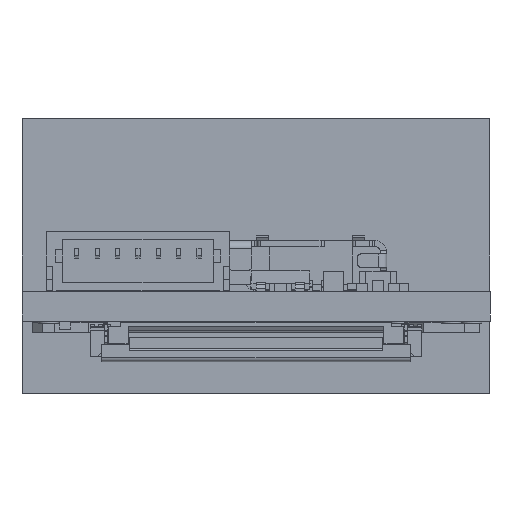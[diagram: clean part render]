
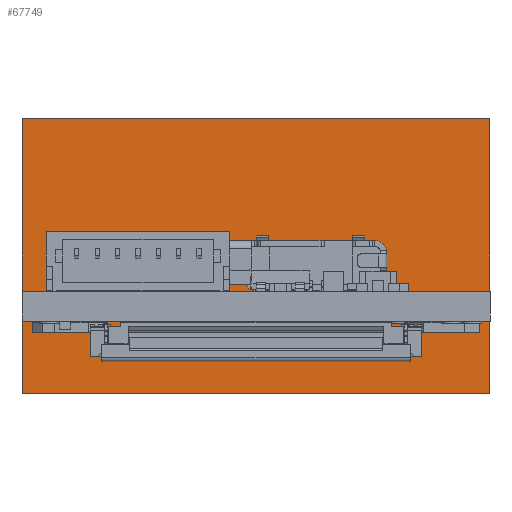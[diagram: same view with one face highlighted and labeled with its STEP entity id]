
A CAD part, left-side view. The second image highlights one B-rep face of the part: STEP entity #67749.
In plain terms, the highlighted planar face has unit normal (-1, 0, 0).
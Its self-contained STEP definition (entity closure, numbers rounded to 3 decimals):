
#67651 = EDGE_CURVE('',#67652,#67654,#67656,.T.);
#67652 = VERTEX_POINT('',#67653);
#67653 = CARTESIAN_POINT('',(-0.25,11.5,0.));
#67654 = VERTEX_POINT('',#67655);
#67655 = CARTESIAN_POINT('',(-0.25,11.5,13.5));
#67656 = LINE('',#67657,#67658);
#67657 = CARTESIAN_POINT('',(-0.25,11.5,0.));
#67658 = VECTOR('',#67659,1.);
#67659 = DIRECTION('',(0.,0.,1.));
#67724 = VERTEX_POINT('',#67725);
#67725 = CARTESIAN_POINT('',(-0.25,-11.5,13.5));
#67731 = EDGE_CURVE('',#67732,#67724,#67734,.T.);
#67732 = VERTEX_POINT('',#67733);
#67733 = CARTESIAN_POINT('',(-0.25,-11.5,0.));
#67734 = LINE('',#67735,#67736);
#67735 = CARTESIAN_POINT('',(-0.25,-11.5,0.));
#67736 = VECTOR('',#67737,1.);
#67737 = DIRECTION('',(0.,0.,1.));
#67749 = ADVANCED_FACE('',(#67750),#67766,.T.);
#67750 = FACE_BOUND('',#67751,.T.);
#67751 = EDGE_LOOP('',(#67752,#67753,#67759,#67760));
#67752 = ORIENTED_EDGE('',*,*,#67731,.T.);
#67753 = ORIENTED_EDGE('',*,*,#67754,.T.);
#67754 = EDGE_CURVE('',#67724,#67654,#67755,.T.);
#67755 = LINE('',#67756,#67757);
#67756 = CARTESIAN_POINT('',(-0.25,-11.5,13.5));
#67757 = VECTOR('',#67758,1.);
#67758 = DIRECTION('',(0.,1.,0.));
#67759 = ORIENTED_EDGE('',*,*,#67651,.F.);
#67760 = ORIENTED_EDGE('',*,*,#67761,.F.);
#67761 = EDGE_CURVE('',#67732,#67652,#67762,.T.);
#67762 = LINE('',#67763,#67764);
#67763 = CARTESIAN_POINT('',(-0.25,-11.5,0.));
#67764 = VECTOR('',#67765,1.);
#67765 = DIRECTION('',(0.,1.,0.));
#67766 = PLANE('',#67767);
#67767 = AXIS2_PLACEMENT_3D('',#67768,#67769,#67770);
#67768 = CARTESIAN_POINT('',(-0.25,-11.5,0.));
#67769 = DIRECTION('',(-1.,0.,0.));
#67770 = DIRECTION('',(0.,1.,0.));
